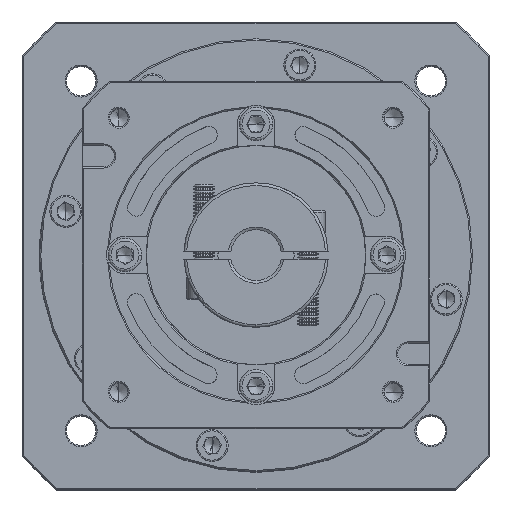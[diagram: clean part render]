
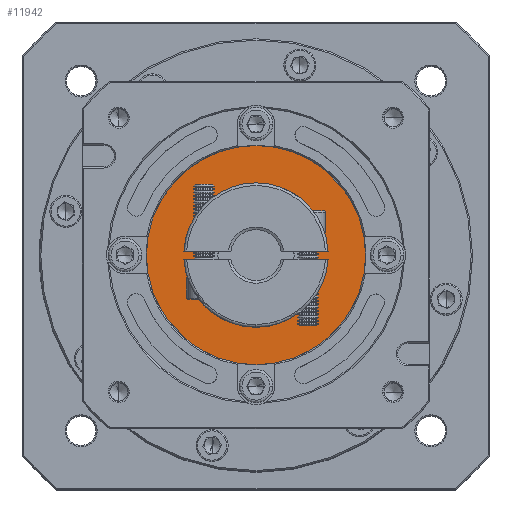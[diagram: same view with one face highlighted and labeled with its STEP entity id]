
A CAD part, top view. The second image highlights one B-rep face of the part: STEP entity #11942.
In plain terms, the highlighted planar face has unit normal (0, 0, 1).
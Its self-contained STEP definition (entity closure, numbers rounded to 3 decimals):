
#4182 = CIRCLE ( 'NONE', #67181, 20. ) ;
#5929 = DIRECTION ( 'NONE',  ( 0., 0., -1. ) ) ;
#8404 = EDGE_CURVE ( 'NONE', #100524, #51134, #38061, .T. ) ;
#11056 = CARTESIAN_POINT ( 'NONE',  ( -113.129, 74.667, -64.933 ) ) ;
#11942 = ADVANCED_FACE ( 'NONE', ( #103442, #54017 ), #98759, .T. ) ;
#13342 = AXIS2_PLACEMENT_3D ( 'NONE', #29978, #31436, #48693 ) ;
#14769 = VERTEX_POINT ( 'NONE', #80342 ) ;
#22679 = CARTESIAN_POINT ( 'NONE',  ( -93.129, 74.667, -64.933 ) ) ;
#26634 = CIRCLE ( 'NONE', #93649, 41. ) ;
#27137 = CARTESIAN_POINT ( 'NONE',  ( -134.129, 74.667, -64.933 ) ) ;
#29978 = CARTESIAN_POINT ( 'NONE',  ( -93.129, 74.667, -64.933 ) ) ;
#31436 = DIRECTION ( 'NONE',  ( 0., 0., 1. ) ) ;
#37090 = EDGE_CURVE ( 'NONE', #14769, #95545, #4182, .T. ) ;
#38061 = CIRCLE ( 'NONE', #83479, 41. ) ;
#39407 = DIRECTION ( 'NONE',  ( 1., 0., 0. ) ) ;
#39629 = AXIS2_PLACEMENT_3D ( 'NONE', #109123, #50079, #66855 ) ;
#44369 = ORIENTED_EDGE ( 'NONE', *, *, #8404, .T. ) ;
#47738 = ORIENTED_EDGE ( 'NONE', *, *, #37090, .T. ) ;
#48693 = DIRECTION ( 'NONE',  ( 1., 0., 0. ) ) ;
#50079 = DIRECTION ( 'NONE',  ( 0., 0., -1. ) ) ;
#51134 = VERTEX_POINT ( 'NONE', #27137 ) ;
#52580 = CARTESIAN_POINT ( 'NONE',  ( -93.129, 74.667, -64.933 ) ) ;
#54017 = FACE_BOUND ( 'NONE', #64993, .T. ) ;
#55539 = CARTESIAN_POINT ( 'NONE',  ( -93.129, 74.667, -64.933 ) ) ;
#64265 = EDGE_CURVE ( 'NONE', #95545, #14769, #75247, .T. ) ;
#64993 = EDGE_LOOP ( 'NONE', ( #47738, #73610 ) ) ;
#66855 = DIRECTION ( 'NONE',  ( 1., 0., 0. ) ) ;
#67181 = AXIS2_PLACEMENT_3D ( 'NONE', #22679, #5929, #108228 ) ;
#73610 = ORIENTED_EDGE ( 'NONE', *, *, #64265, .T. ) ;
#75247 = CIRCLE ( 'NONE', #39629, 20. ) ;
#79487 = DIRECTION ( 'NONE',  ( 0., 0., 1. ) ) ;
#80342 = CARTESIAN_POINT ( 'NONE',  ( -73.129, 74.667, -64.933 ) ) ;
#83479 = AXIS2_PLACEMENT_3D ( 'NONE', #52580, #79487, #104867 ) ;
#90985 = CARTESIAN_POINT ( 'NONE',  ( -52.129, 74.667, -64.933 ) ) ;
#93649 = AXIS2_PLACEMENT_3D ( 'NONE', #55539, #107122, #39407 ) ;
#94671 = ORIENTED_EDGE ( 'NONE', *, *, #109022, .T. ) ;
#95140 = EDGE_LOOP ( 'NONE', ( #44369, #94671 ) ) ;
#95545 = VERTEX_POINT ( 'NONE', #11056 ) ;
#98759 = PLANE ( 'NONE',  #13342 ) ;
#100524 = VERTEX_POINT ( 'NONE', #90985 ) ;
#103442 = FACE_OUTER_BOUND ( 'NONE', #95140, .T. ) ;
#104867 = DIRECTION ( 'NONE',  ( 1., 0., 0. ) ) ;
#107122 = DIRECTION ( 'NONE',  ( 0., 0., 1. ) ) ;
#108228 = DIRECTION ( 'NONE',  ( 1., 0., 0. ) ) ;
#109022 = EDGE_CURVE ( 'NONE', #51134, #100524, #26634, .T. ) ;
#109123 = CARTESIAN_POINT ( 'NONE',  ( -93.129, 74.667, -64.933 ) ) ;
